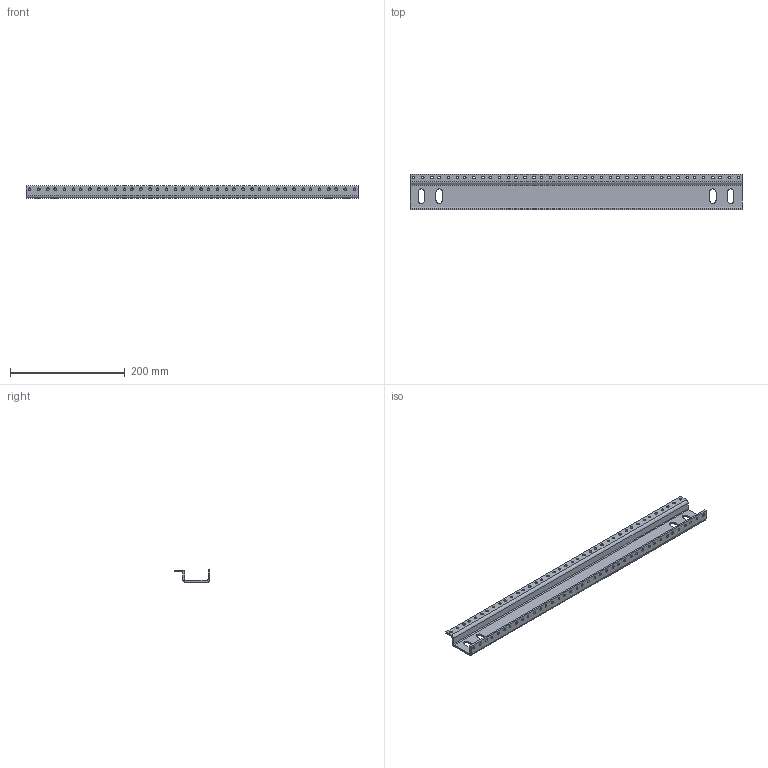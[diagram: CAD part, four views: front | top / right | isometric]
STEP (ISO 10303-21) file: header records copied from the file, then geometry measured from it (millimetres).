
FILE_DESCRIPTION( ( 'Unknown' ), '1' );
FILE_NAME( 'Q:/WEB DRAWINGS/STEP/COM43934.stp', 'Unknown', ( 'Unknown' ), ( 'Unknown' ), 'PSStep 14.0', 'Unknown', ' ' );
FILE_SCHEMA( ( 'AUTOMOTIVE_DESIGN { 1 0 10303 214 1 1 1 1 }' ) );
Length unit declared in the file: inch
Products named in the file (1): 1
Bounding box: 577.85 x 62.18 x 21.87 mm (x, y, z)
Volume: 167209.5 mm3; surface area: 113906 mm2
Topology: 1 solids, 1 shells, 112 faces, 330 edges, 220 vertices
Faces by surface type: cylinder 92, plane 20
Full cylindrical faces by diameter (mm): 4.496 x78
Entity records: 4688 total; most frequent: DIRECTION 662, CARTESIAN_POINT 585, ORIENTED_EDGE 504, EDGE_LOOP 354, AXIS2_PLACEMENT_3D 297, EDGE_CURVE 252, VERTEX_POINT 220, FACE_OUTER_BOUND 190
